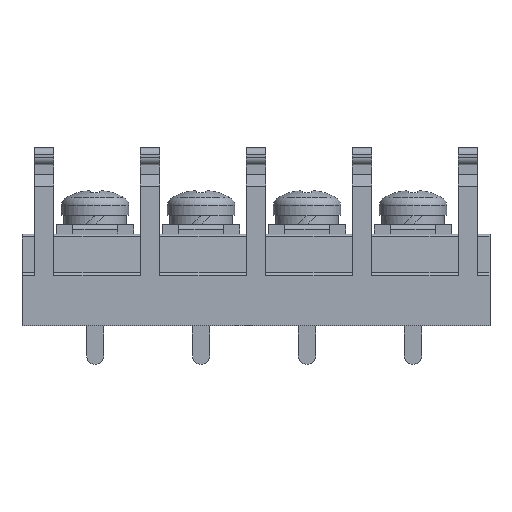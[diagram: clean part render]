
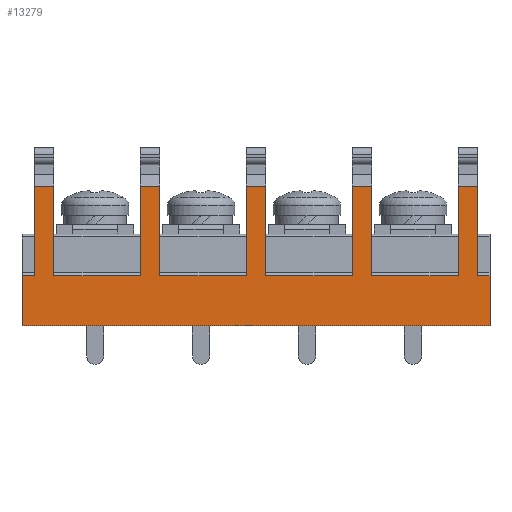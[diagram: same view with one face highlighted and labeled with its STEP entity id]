
A CAD part, top view. The second image highlights one B-rep face of the part: STEP entity #13279.
In plain terms, the highlighted planar face has unit normal (0, 0, 1).
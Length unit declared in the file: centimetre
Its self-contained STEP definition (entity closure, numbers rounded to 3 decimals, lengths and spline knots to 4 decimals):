
#629=VECTOR('',#13926,1.);
#1092=VECTOR('',#14595,1.);
#1094=VECTOR('',#14601,1.);
#1118=VECTOR('',#14651,1.);
#1132=VECTOR('',#14686,1.);
#1141=VECTOR('',#14704,1.);
#1243=VECTOR('',#14981,1.);
#1264=VECTOR('',#15028,1.);
#1277=VECTOR('',#15059,1.);
#1286=VECTOR('',#15077,1.);
#1388=VECTOR('',#15354,1.);
#1409=VECTOR('',#15401,1.);
#1422=VECTOR('',#15432,1.);
#1431=VECTOR('',#15450,1.);
#1533=VECTOR('',#15727,1.);
#1557=VECTOR('',#15786,1.);
#1558=VECTOR('',#15787,1.);
#1565=VECTOR('',#15799,1.);
#1598=VECTOR('',#15866,1.);
#1610=VECTOR('',#15899,1.);
#1612=VECTOR('',#15902,1.);
#2011=VECTOR('',#16445,1.);
#2019=VECTOR('',#16462,1.);
#2029=VECTOR('',#16486,1.);
#2069=LINE('',#16697,#629);
#2532=LINE('',#18358,#1092);
#2534=LINE('',#18364,#1094);
#2558=LINE('',#18427,#1118);
#2572=LINE('',#18471,#1132);
#2581=LINE('',#18497,#1141);
#2683=LINE('',#18846,#1243);
#2704=LINE('',#18903,#1264);
#2717=LINE('',#18943,#1277);
#2726=LINE('',#18969,#1286);
#2828=LINE('',#19318,#1388);
#2849=LINE('',#19375,#1409);
#2862=LINE('',#19415,#1422);
#2871=LINE('',#19441,#1431);
#2973=LINE('',#19790,#1533);
#2997=LINE('',#19858,#1557);
#2998=LINE('',#19859,#1558);
#3005=LINE('',#19876,#1565);
#3038=LINE('',#19960,#1598);
#3050=LINE('',#20000,#1610);
#3052=LINE('',#20003,#1612);
#3451=LINE('',#21494,#2011);
#3459=LINE('',#21517,#2019);
#3469=LINE('',#21537,#2029);
#3529=VERTEX_POINT('',#16692);
#3531=VERTEX_POINT('',#16696);
#3916=VERTEX_POINT('',#18337);
#3926=VERTEX_POINT('',#18357);
#3928=VERTEX_POINT('',#18363);
#3951=VERTEX_POINT('',#18426);
#3952=VERTEX_POINT('',#18428);
#3970=VERTEX_POINT('',#18470);
#4078=VERTEX_POINT('',#18845);
#4098=VERTEX_POINT('',#18902);
#4099=VERTEX_POINT('',#18904);
#4116=VERTEX_POINT('',#18942);
#4224=VERTEX_POINT('',#19317);
#4244=VERTEX_POINT('',#19374);
#4245=VERTEX_POINT('',#19376);
#4262=VERTEX_POINT('',#19414);
#4370=VERTEX_POINT('',#19789);
#4394=VERTEX_POINT('',#19857);
#4395=VERTEX_POINT('',#19860);
#4430=VERTEX_POINT('',#19959);
#4431=VERTEX_POINT('',#19961);
#4447=VERTEX_POINT('',#19999);
#4774=VERTEX_POINT('',#21492);
#4776=VERTEX_POINT('',#21495);
#5109=EDGE_CURVE('',#3531,#3529,#2069,.T.);
#5696=EDGE_CURVE('',#3916,#3926,#2532,.T.);
#5699=EDGE_CURVE('',#3928,#3926,#2534,.T.);
#5730=EDGE_CURVE('',#3952,#3951,#2558,.T.);
#5753=EDGE_CURVE('',#3928,#3970,#2572,.T.);
#5768=EDGE_CURVE('',#3952,#3970,#2581,.T.);
#5922=EDGE_CURVE('',#4078,#3951,#2683,.T.);
#5950=EDGE_CURVE('',#4099,#4098,#2704,.T.);
#5971=EDGE_CURVE('',#4078,#4116,#2717,.T.);
#5986=EDGE_CURVE('',#4099,#4116,#2726,.T.);
#6140=EDGE_CURVE('',#4224,#4098,#2828,.T.);
#6168=EDGE_CURVE('',#4245,#4244,#2849,.T.);
#6189=EDGE_CURVE('',#4224,#4262,#2862,.T.);
#6204=EDGE_CURVE('',#4245,#4262,#2871,.T.);
#6358=EDGE_CURVE('',#4370,#4244,#2973,.T.);
#6393=EDGE_CURVE('',#4370,#4394,#2997,.T.);
#6394=EDGE_CURVE('',#4395,#3529,#2998,.T.);
#6404=EDGE_CURVE('',#4395,#4394,#3005,.T.);
#6446=EDGE_CURVE('',#4431,#4430,#3038,.T.);
#6468=EDGE_CURVE('',#3531,#4447,#3050,.T.);
#6470=EDGE_CURVE('',#4431,#4447,#3052,.T.);
#6973=EDGE_CURVE('',#4776,#4774,#3451,.T.);
#6985=EDGE_CURVE('',#3916,#4774,#3459,.T.);
#6995=EDGE_CURVE('',#4430,#4776,#3469,.T.);
#10912=ORIENTED_EDGE('',*,*,#6973,.T.);
#10913=ORIENTED_EDGE('',*,*,#6985,.F.);
#10914=ORIENTED_EDGE('',*,*,#5696,.T.);
#10915=ORIENTED_EDGE('',*,*,#5699,.F.);
#10916=ORIENTED_EDGE('',*,*,#5753,.T.);
#10917=ORIENTED_EDGE('',*,*,#5768,.F.);
#10918=ORIENTED_EDGE('',*,*,#5730,.T.);
#10919=ORIENTED_EDGE('',*,*,#5922,.F.);
#10920=ORIENTED_EDGE('',*,*,#5971,.T.);
#10921=ORIENTED_EDGE('',*,*,#5986,.F.);
#10922=ORIENTED_EDGE('',*,*,#5950,.T.);
#10923=ORIENTED_EDGE('',*,*,#6140,.F.);
#10924=ORIENTED_EDGE('',*,*,#6189,.T.);
#10925=ORIENTED_EDGE('',*,*,#6204,.F.);
#10926=ORIENTED_EDGE('',*,*,#6168,.T.);
#10927=ORIENTED_EDGE('',*,*,#6358,.F.);
#10928=ORIENTED_EDGE('',*,*,#6393,.T.);
#10929=ORIENTED_EDGE('',*,*,#6404,.F.);
#10930=ORIENTED_EDGE('',*,*,#6394,.T.);
#10931=ORIENTED_EDGE('',*,*,#5109,.F.);
#10932=ORIENTED_EDGE('',*,*,#6468,.T.);
#10933=ORIENTED_EDGE('',*,*,#6470,.F.);
#10934=ORIENTED_EDGE('',*,*,#6446,.T.);
#10935=ORIENTED_EDGE('',*,*,#6995,.T.);
#11743=EDGE_LOOP('',(#10912,#10913,#10914,#10915,#10916,#10917,#10918,#10919,
#10920,#10921,#10922,#10923,#10924,#10925,#10926,#10927,#10928,#10929,#10930,
#10931,#10932,#10933,#10934,#10935));
#12551=FACE_BOUND('',#11743,.T.);
#13279=ADVANCED_FACE('',(#12551),#13767,.T.);
#13767=PLANE('',#22425);
#13926=DIRECTION('',(1.,0.,0.));
#14595=DIRECTION('',(0.,1.,0.));
#14601=DIRECTION('',(1.,0.,0.));
#14651=DIRECTION('',(0.,-1.,0.));
#14686=DIRECTION('',(0.,1.,0.));
#14704=DIRECTION('',(1.,0.,0.));
#14981=DIRECTION('',(1.,0.,0.));
#15028=DIRECTION('',(0.,-1.,0.));
#15059=DIRECTION('',(0.,1.,0.));
#15077=DIRECTION('',(1.,0.,0.));
#15354=DIRECTION('',(1.,0.,0.));
#15401=DIRECTION('',(0.,-1.,0.));
#15432=DIRECTION('',(0.,1.,0.));
#15450=DIRECTION('',(1.,0.,0.));
#15727=DIRECTION('',(1.,0.,0.));
#15786=DIRECTION('',(0.,1.,0.));
#15787=DIRECTION('',(0.,-1.,0.));
#15799=DIRECTION('',(1.,0.,0.));
#15866=DIRECTION('',(0.,-1.,0.));
#15899=DIRECTION('',(0.,1.,0.));
#15902=DIRECTION('',(1.,0.,0.));
#16445=DIRECTION('',(0.,-1.,0.));
#16462=DIRECTION('',(-1.,0.,0.));
#16486=DIRECTION('',(-1.,0.,0.));
#16487=DIRECTION('',(0.,0.,1.));
#16692=CARTESIAN_POINT('',(0.,0.52,0.85));
#16696=CARTESIAN_POINT('',(-0.9,0.52,0.85));
#16697=CARTESIAN_POINT('',(-0.9,0.52,0.85));
#18337=CARTESIAN_POINT('',(3.63,0.,0.85));
#18357=CARTESIAN_POINT('',(3.63,0.52,0.85));
#18358=CARTESIAN_POINT('',(3.63,0.52,0.85));
#18363=CARTESIAN_POINT('',(3.5,0.52,0.85));
#18364=CARTESIAN_POINT('',(3.5,0.52,0.85));
#18426=CARTESIAN_POINT('',(3.3,0.52,0.85));
#18427=CARTESIAN_POINT('',(3.3,1.45,0.85));
#18428=CARTESIAN_POINT('',(3.3,1.45,0.85));
#18470=CARTESIAN_POINT('',(3.5,1.45,0.85));
#18471=CARTESIAN_POINT('',(3.5,1.45,0.85));
#18497=CARTESIAN_POINT('',(3.3,1.45,0.85));
#18845=CARTESIAN_POINT('',(2.4,0.52,0.85));
#18846=CARTESIAN_POINT('',(2.4,0.52,0.85));
#18902=CARTESIAN_POINT('',(2.2,0.52,0.85));
#18903=CARTESIAN_POINT('',(2.2,1.45,0.85));
#18904=CARTESIAN_POINT('',(2.2,1.45,0.85));
#18942=CARTESIAN_POINT('',(2.4,1.45,0.85));
#18943=CARTESIAN_POINT('',(2.4,1.45,0.85));
#18969=CARTESIAN_POINT('',(2.2,1.45,0.85));
#19317=CARTESIAN_POINT('',(1.3,0.52,0.85));
#19318=CARTESIAN_POINT('',(1.3,0.52,0.85));
#19374=CARTESIAN_POINT('',(1.1,0.52,0.85));
#19375=CARTESIAN_POINT('',(1.1,1.45,0.85));
#19376=CARTESIAN_POINT('',(1.1,1.45,0.85));
#19414=CARTESIAN_POINT('',(1.3,1.45,0.85));
#19415=CARTESIAN_POINT('',(1.3,1.45,0.85));
#19441=CARTESIAN_POINT('',(1.1,1.45,0.85));
#19789=CARTESIAN_POINT('',(0.2,0.52,0.85));
#19790=CARTESIAN_POINT('',(0.2,0.52,0.85));
#19857=CARTESIAN_POINT('',(0.2,1.45,0.85));
#19858=CARTESIAN_POINT('',(0.2,1.45,0.85));
#19859=CARTESIAN_POINT('',(0.,1.45,0.85));
#19860=CARTESIAN_POINT('',(0.,1.45,0.85));
#19876=CARTESIAN_POINT('',(0.,1.45,0.85));
#19959=CARTESIAN_POINT('',(-1.1,0.52,0.85));
#19960=CARTESIAN_POINT('',(-1.1,1.45,0.85));
#19961=CARTESIAN_POINT('',(-1.1,1.45,0.85));
#19999=CARTESIAN_POINT('',(-0.9,1.45,0.85));
#20000=CARTESIAN_POINT('',(-0.9,1.45,0.85));
#20003=CARTESIAN_POINT('',(-1.1,1.45,0.85));
#21492=CARTESIAN_POINT('',(-1.23,0.,0.85));
#21494=CARTESIAN_POINT('',(-1.23,0.,0.85));
#21495=CARTESIAN_POINT('',(-1.23,0.52,0.85));
#21517=CARTESIAN_POINT('',(-1.1,0.,0.85));
#21537=CARTESIAN_POINT('',(-1.1,0.52,0.85));
#21538=CARTESIAN_POINT('',(-1.1,0.26,0.85));
#22425=AXIS2_PLACEMENT_3D('',#21538,#16487,$);
